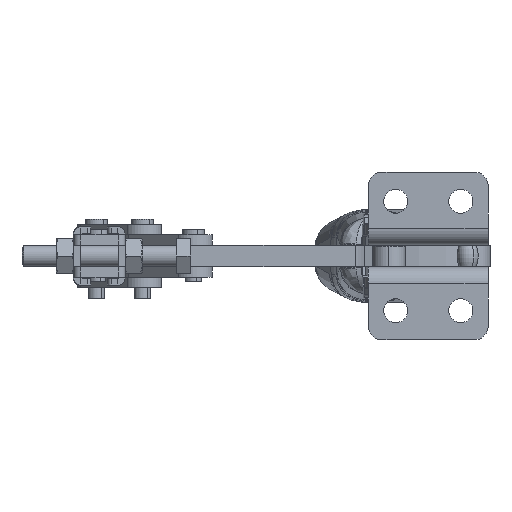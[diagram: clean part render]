
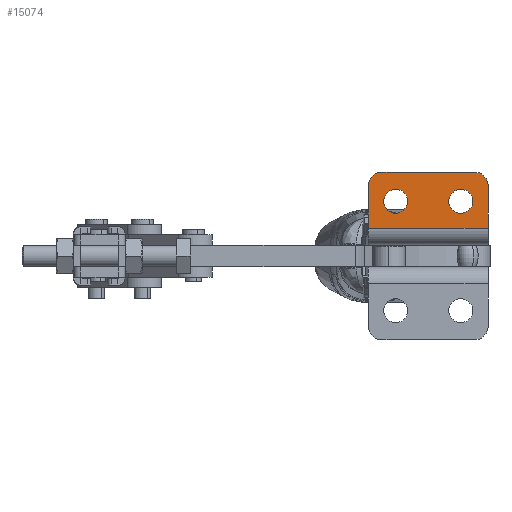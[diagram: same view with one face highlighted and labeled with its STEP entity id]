
A CAD part, front view. The second image highlights one B-rep face of the part: STEP entity #15074.
In plain terms, the highlighted planar face has unit normal (0, -1, 0).
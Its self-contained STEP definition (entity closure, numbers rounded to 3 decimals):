
#346 = ORIENTED_EDGE ( 'NONE', *, *, #11198, .F. ) ;
#547 = DIRECTION ( 'NONE',  ( 0., 0., 1. ) ) ;
#808 = DIRECTION ( 'NONE',  ( 0., 1., 0. ) ) ;
#886 = AXIS2_PLACEMENT_3D ( 'NONE', #2760, #808, #6526 ) ;
#1023 = EDGE_CURVE ( 'NONE', #2850, #15033, #7559, .T. ) ;
#1378 = CIRCLE ( 'NONE', #2412, 3.5 ) ;
#1440 = DIRECTION ( 'NONE',  ( 0., 0., 1. ) ) ;
#1510 = CARTESIAN_POINT ( 'NONE',  ( 29., 0.749, 34.751 ) ) ;
#1666 = CARTESIAN_POINT ( 'NONE',  ( 31., 0.749, 30.751 ) ) ;
#2013 = DIRECTION ( 'NONE',  ( 0., 1., 0. ) ) ;
#2092 = AXIS2_PLACEMENT_3D ( 'NONE', #14470, #3380, #16316 ) ;
#2412 = AXIS2_PLACEMENT_3D ( 'NONE', #13126, #2013, #14945 ) ;
#2604 = CARTESIAN_POINT ( 'NONE',  ( 8., 0.749, 22.751 ) ) ;
#2760 = CARTESIAN_POINT ( 'NONE',  ( 29., 0.749, -21.249 ) ) ;
#2850 = VERTEX_POINT ( 'NONE', #22940 ) ;
#2891 = CARTESIAN_POINT ( 'NONE',  ( 4., 0.749, 34.751 ) ) ;
#3380 = DIRECTION ( 'NONE',  ( 0., 1., 0. ) ) ;
#3536 = DIRECTION ( 'NONE',  ( 0., 0., 1. ) ) ;
#3902 = ORIENTED_EDGE ( 'NONE', *, *, #12692, .F. ) ;
#4017 = VERTEX_POINT ( 'NONE', #22780 ) ;
#4633 = PLANE ( 'NONE',  #886 ) ;
#5018 = DIRECTION ( 'NONE',  ( 0., 0., -1. ) ) ;
#5360 = ORIENTED_EDGE ( 'NONE', *, *, #23214, .F. ) ;
#5515 = ORIENTED_EDGE ( 'NONE', *, *, #19210, .T. ) ;
#6063 = CARTESIAN_POINT ( 'NONE',  ( 8., 0.749, 26.251 ) ) ;
#6141 = CARTESIAN_POINT ( 'NONE',  ( 8., 0.749, 26.251 ) ) ;
#6526 = DIRECTION ( 'NONE',  ( 0., 0., 1. ) ) ;
#6625 = ORIENTED_EDGE ( 'NONE', *, *, #21446, .T. ) ;
#6655 = ORIENTED_EDGE ( 'NONE', *, *, #1023, .T. ) ;
#6697 = ORIENTED_EDGE ( 'NONE', *, *, #10616, .T. ) ;
#7559 = CIRCLE ( 'NONE', #23659, 3.5 ) ;
#7723 = VERTEX_POINT ( 'NONE', #11679 ) ;
#7908 = DIRECTION ( 'NONE',  ( 0., 0., 1. ) ) ;
#8356 = ORIENTED_EDGE ( 'NONE', *, *, #23175, .F. ) ;
#9518 = LINE ( 'NONE', #14222, #13834 ) ;
#9838 = AXIS2_PLACEMENT_3D ( 'NONE', #23550, #12575, #1440 ) ;
#10152 = CARTESIAN_POINT ( 'NONE',  ( 0., 0.749, 30.751 ) ) ;
#10543 = CARTESIAN_POINT ( 'NONE',  ( 35., 0.749, 30.751 ) ) ;
#10616 = EDGE_CURVE ( 'NONE', #4017, #15255, #1378, .T. ) ;
#10705 = DIRECTION ( 'NONE',  ( -1., 0., 0. ) ) ;
#10884 = FACE_BOUND ( 'NONE', #11683, .T. ) ;
#11028 = VERTEX_POINT ( 'NONE', #10543 ) ;
#11198 = EDGE_CURVE ( 'NONE', #18220, #15071, #14106, .T. ) ;
#11679 = CARTESIAN_POINT ( 'NONE',  ( 35., 0.749, 18.425 ) ) ;
#11683 = EDGE_LOOP ( 'NONE', ( #6625, #6697 ) ) ;
#12050 = AXIS2_PLACEMENT_3D ( 'NONE', #1666, #14623, #3536 ) ;
#12252 = VERTEX_POINT ( 'NONE', #12980 ) ;
#12575 = DIRECTION ( 'NONE',  ( 0., 1., 0. ) ) ;
#12692 = EDGE_CURVE ( 'NONE', #11028, #7723, #14399, .T. ) ;
#12716 = CIRCLE ( 'NONE', #12050, 4. ) ;
#12950 = DIRECTION ( 'NONE',  ( 0., 0., 1. ) ) ;
#12980 = CARTESIAN_POINT ( 'NONE',  ( 31., 0.749, 34.751 ) ) ;
#13126 = CARTESIAN_POINT ( 'NONE',  ( 27., 0.749, 26.251 ) ) ;
#13246 = ORIENTED_EDGE ( 'NONE', *, *, #23241, .F. ) ;
#13523 = DIRECTION ( 'NONE',  ( 0., 1., 0. ) ) ;
#13809 = VECTOR ( 'NONE', #5018, 1000. ) ;
#13834 = VECTOR ( 'NONE', #10705, 1000. ) ;
#14106 = LINE ( 'NONE', #20281, #17861 ) ;
#14222 = CARTESIAN_POINT ( 'NONE',  ( 29., 0.749, 18.425 ) ) ;
#14399 = LINE ( 'NONE', #16078, #13809 ) ;
#14470 = CARTESIAN_POINT ( 'NONE',  ( 4., 0.749, 30.751 ) ) ;
#14623 = DIRECTION ( 'NONE',  ( 0., 1., 0. ) ) ;
#14945 = DIRECTION ( 'NONE',  ( 0., 0., 1. ) ) ;
#14974 = CIRCLE ( 'NONE', #2092, 4. ) ;
#15033 = VERTEX_POINT ( 'NONE', #2604 ) ;
#15071 = VERTEX_POINT ( 'NONE', #10152 ) ;
#15074 = ADVANCED_FACE ( 'NONE', ( #21247, #10884, #20688 ), #4633, .F. ) ;
#15255 = VERTEX_POINT ( 'NONE', #20173 ) ;
#16078 = CARTESIAN_POINT ( 'NONE',  ( 35., 0.749, -21.249 ) ) ;
#16316 = DIRECTION ( 'NONE',  ( 0., 0., 1. ) ) ;
#17123 = CIRCLE ( 'NONE', #20199, 3.5 ) ;
#17572 = VECTOR ( 'NONE', #21863, 1000. ) ;
#17861 = VECTOR ( 'NONE', #12950, 1000. ) ;
#18220 = VERTEX_POINT ( 'NONE', #18620 ) ;
#18620 = CARTESIAN_POINT ( 'NONE',  ( 0., 0.749, 18.425 ) ) ;
#18789 = VERTEX_POINT ( 'NONE', #2891 ) ;
#18974 = DIRECTION ( 'NONE',  ( 0., 1., 0. ) ) ;
#19210 = EDGE_CURVE ( 'NONE', #15033, #2850, #17123, .T. ) ;
#20173 = CARTESIAN_POINT ( 'NONE',  ( 27., 0.749, 29.751 ) ) ;
#20199 = AXIS2_PLACEMENT_3D ( 'NONE', #6063, #18974, #7908 ) ;
#20281 = CARTESIAN_POINT ( 'NONE',  ( 0., 0.749, -21.249 ) ) ;
#20550 = CIRCLE ( 'NONE', #9838, 3.5 ) ;
#20688 = FACE_BOUND ( 'NONE', #20977, .T. ) ;
#20977 = EDGE_LOOP ( 'NONE', ( #6655, #5515 ) ) ;
#21175 = EDGE_LOOP ( 'NONE', ( #21421, #3902, #13246, #5360, #8356, #346 ) ) ;
#21247 = FACE_OUTER_BOUND ( 'NONE', #21175, .T. ) ;
#21421 = ORIENTED_EDGE ( 'NONE', *, *, #23152, .F. ) ;
#21446 = EDGE_CURVE ( 'NONE', #15255, #4017, #20550, .T. ) ;
#21863 = DIRECTION ( 'NONE',  ( 1., 0., 0. ) ) ;
#22443 = LINE ( 'NONE', #1510, #17572 ) ;
#22780 = CARTESIAN_POINT ( 'NONE',  ( 27., 0.749, 22.751 ) ) ;
#22940 = CARTESIAN_POINT ( 'NONE',  ( 8., 0.749, 29.751 ) ) ;
#23152 = EDGE_CURVE ( 'NONE', #7723, #18220, #9518, .T. ) ;
#23175 = EDGE_CURVE ( 'NONE', #15071, #18789, #14974, .T. ) ;
#23214 = EDGE_CURVE ( 'NONE', #18789, #12252, #22443, .T. ) ;
#23241 = EDGE_CURVE ( 'NONE', #12252, #11028, #12716, .T. ) ;
#23550 = CARTESIAN_POINT ( 'NONE',  ( 27., 0.749, 26.251 ) ) ;
#23659 = AXIS2_PLACEMENT_3D ( 'NONE', #6141, #13523, #547 ) ;
